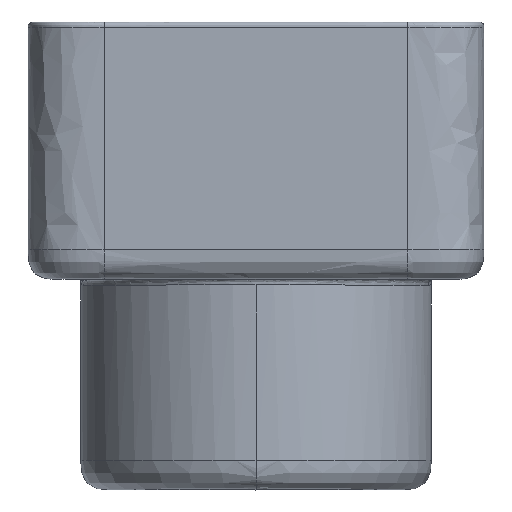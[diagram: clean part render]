
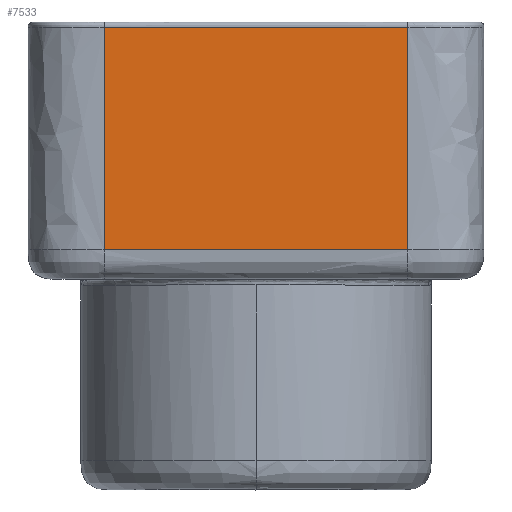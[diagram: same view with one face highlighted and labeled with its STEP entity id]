
A CAD part, top view. The second image highlights one B-rep face of the part: STEP entity #7533.
In plain terms, the highlighted planar face has unit normal (0, 0, 1).
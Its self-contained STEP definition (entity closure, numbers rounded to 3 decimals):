
#192 = CARTESIAN_POINT ( 'NONE',  ( -3663.634, 395., 118.126 ) ) ;
#1035 = CARTESIAN_POINT ( 'NONE',  ( -3750.301, 395., 118.126 ) ) ;
#1340 = CARTESIAN_POINT ( 'NONE',  ( -3923.634, 205., 118.126 ) ) ;
#1917 = EDGE_LOOP ( 'NONE', ( #14408, #10155, #14651, #6578 ) ) ;
#1978 = EDGE_CURVE ( 'NONE', #1987, #7486, #9383, .T. ) ;
#1987 = VERTEX_POINT ( 'NONE', #6606 ) ;
#2244 = CARTESIAN_POINT ( 'NONE',  ( -3598.634, 400., 118.126 ) ) ;
#2495 = AXIS2_PLACEMENT_3D ( 'NONE', #2244, #6918, #8041 ) ;
#2560 = CARTESIAN_POINT ( 'NONE',  ( -3663.634, 205., 118.126 ) ) ;
#2713 = CARTESIAN_POINT ( 'NONE',  ( -3663.634, 268.333, 118.126 ) ) ;
#4473 = CARTESIAN_POINT ( 'NONE',  ( -3836.968, 395., 118.126 ) ) ;
#4575 = CARTESIAN_POINT ( 'NONE',  ( -3923.634, 395., 118.126 ) ) ;
#4805 = B_SPLINE_CURVE_WITH_KNOTS ( 'NONE', 3,
 ( #12130, #1035, #4473, #4575 ),
 .UNSPECIFIED., .F., .F.,
 ( 4, 4 ),
 ( 0., 1. ),
 .UNSPECIFIED. ) ;
#4975 = CARTESIAN_POINT ( 'NONE',  ( -3923.634, 205., 118.126 ) ) ;
#5669 = VERTEX_POINT ( 'NONE', #13766 ) ;
#6016 = CARTESIAN_POINT ( 'NONE',  ( -3663.634, 395., 118.126 ) ) ;
#6476 = EDGE_CURVE ( 'NONE', #11010, #1987, #4805, .T. ) ;
#6578 = ORIENTED_EDGE ( 'NONE', *, *, #12884, .T. ) ;
#6606 = CARTESIAN_POINT ( 'NONE',  ( -3923.634, 395., 118.126 ) ) ;
#6742 = CARTESIAN_POINT ( 'NONE',  ( -3923.634, 395., 118.126 ) ) ;
#6918 = DIRECTION ( 'NONE',  ( 0., 0., -1. ) ) ;
#6990 = B_SPLINE_CURVE_WITH_KNOTS ( 'NONE', 3,
 ( #1340, #9558, #7219, #11715 ),
 .UNSPECIFIED., .F., .F.,
 ( 4, 4 ),
 ( 0., 1. ),
 .UNSPECIFIED. ) ;
#7219 = CARTESIAN_POINT ( 'NONE',  ( -3750.301, 205., 118.126 ) ) ;
#7486 = VERTEX_POINT ( 'NONE', #4975 ) ;
#7533 = ADVANCED_FACE ( 'NONE', ( #14348 ), #13756, .F. ) ;
#8041 = DIRECTION ( 'NONE',  ( -1., 0., 0. ) ) ;
#8754 = CARTESIAN_POINT ( 'NONE',  ( -3923.634, 268.333, 118.126 ) ) ;
#9168 = B_SPLINE_CURVE_WITH_KNOTS ( 'NONE', 3,
 ( #2560, #2713, #10658, #6016 ),
 .UNSPECIFIED., .F., .F.,
 ( 4, 4 ),
 ( 0.114, 0.977 ),
 .UNSPECIFIED. ) ;
#9383 = B_SPLINE_CURVE_WITH_KNOTS ( 'NONE', 3,
 ( #6742, #14724, #8754, #14512 ),
 .UNSPECIFIED., .F., .F.,
 ( 4, 4 ),
 ( 0.023, 0.886 ),
 .UNSPECIFIED. ) ;
#9558 = CARTESIAN_POINT ( 'NONE',  ( -3836.968, 205., 118.126 ) ) ;
#10155 = ORIENTED_EDGE ( 'NONE', *, *, #6476, .T. ) ;
#10658 = CARTESIAN_POINT ( 'NONE',  ( -3663.634, 331.667, 118.126 ) ) ;
#11010 = VERTEX_POINT ( 'NONE', #192 ) ;
#11715 = CARTESIAN_POINT ( 'NONE',  ( -3663.634, 205., 118.126 ) ) ;
#12130 = CARTESIAN_POINT ( 'NONE',  ( -3663.634, 395., 118.126 ) ) ;
#12863 = EDGE_CURVE ( 'NONE', #5669, #11010, #9168, .T. ) ;
#12884 = EDGE_CURVE ( 'NONE', #7486, #5669, #6990, .T. ) ;
#13756 = PLANE ( 'NONE',  #2495 ) ;
#13766 = CARTESIAN_POINT ( 'NONE',  ( -3663.634, 205., 118.126 ) ) ;
#14348 = FACE_OUTER_BOUND ( 'NONE', #1917, .T. ) ;
#14408 = ORIENTED_EDGE ( 'NONE', *, *, #12863, .T. ) ;
#14512 = CARTESIAN_POINT ( 'NONE',  ( -3923.634, 205., 118.126 ) ) ;
#14651 = ORIENTED_EDGE ( 'NONE', *, *, #1978, .T. ) ;
#14724 = CARTESIAN_POINT ( 'NONE',  ( -3923.634, 331.667, 118.126 ) ) ;
